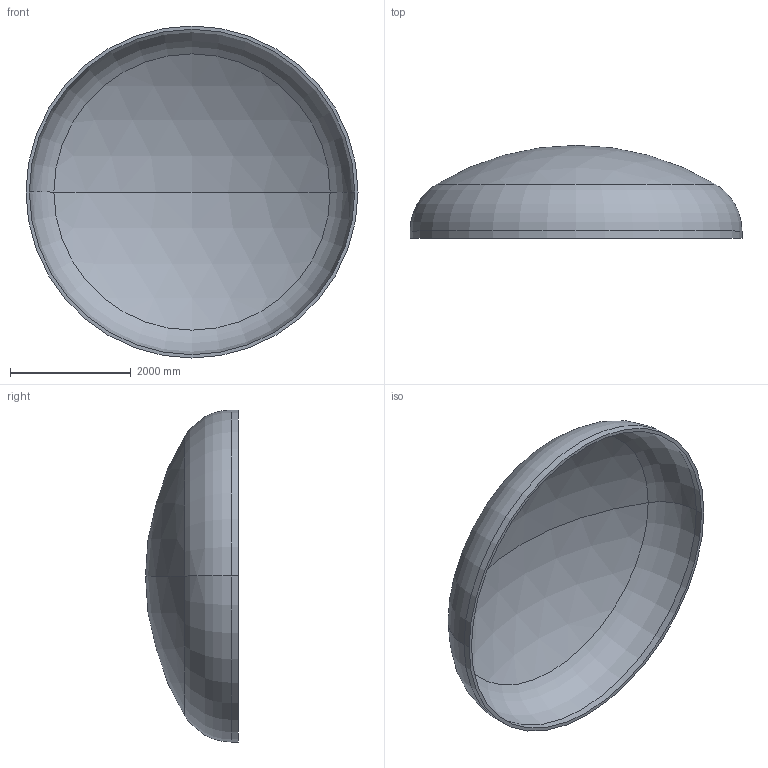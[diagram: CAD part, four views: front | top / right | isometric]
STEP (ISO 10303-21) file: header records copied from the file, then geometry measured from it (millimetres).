
FILE_DESCRIPTION (( 'STEP AP203' ), '1' );
FILE_NAME ('DIN 28013 Korbbogenform_-_Boden DIN 28013 - 5500 x 120 - I - s=56.step', '2016-07-04T10:34:29', ( '' ), ( '' ), 'SwSTEP 2.0', 'SolidWorks 2013', '' );
FILE_SCHEMA (( 'CONFIG_CONTROL_DESIGN' ));
Length unit declared in the file: millimetre
Products named in the file (1): DIN 28013 Korbbogenform_-_Boden DIN 28013 - 5500 x 120 - I - s=56
Bounding box: 5500 x 1539.68 x 5500 mm (x, y, z)
Volume: 1932117669.7 mm3; surface area: 69968502.9 mm2
Topology: 1 solids, 1 shells, 13 faces, 24 edges, 14 vertices
Faces by surface type: torus 4, cylinder 4, sphere 4, plane 1
Entity records: 407 total; most frequent: DIRECTION 72, CARTESIAN_POINT 52, ORIENTED_EDGE 48, AXIS2_PLACEMENT_3D 34, EDGE_CURVE 24, CIRCLE 20, VERTEX_POINT 14, EDGE_LOOP 14
